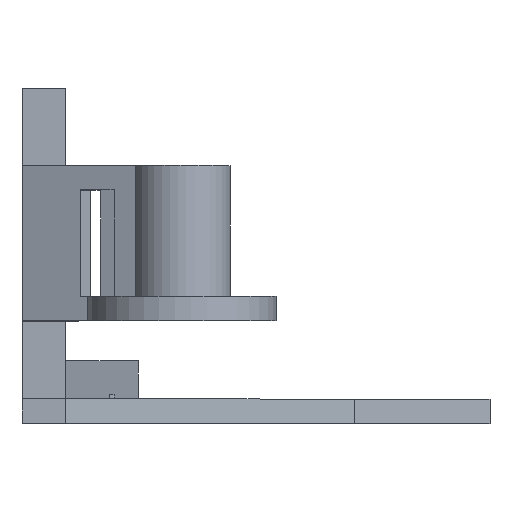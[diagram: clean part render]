
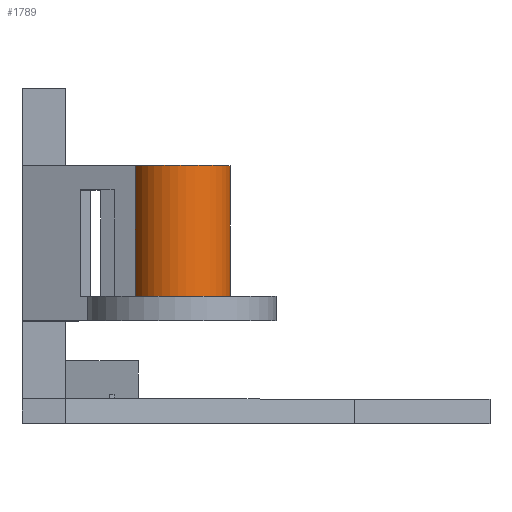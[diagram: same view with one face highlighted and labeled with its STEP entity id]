
A CAD part, top view. The second image highlights one B-rep face of the part: STEP entity #1789.
In plain terms, the highlighted cylindrical face has radius 10 mm (diameter 20 mm), a partial arc.
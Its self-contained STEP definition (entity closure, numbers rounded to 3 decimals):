
#296 = PLANE('',#297);
#297 = AXIS2_PLACEMENT_3D('',#298,#299,#300);
#298 = CARTESIAN_POINT('',(-18.785,16.,-13.008));
#299 = DIRECTION('',(-0.,-1.,-0.));
#300 = DIRECTION('',(0.,0.,-1.));
#324 = PLANE('',#325);
#325 = AXIS2_PLACEMENT_3D('',#326,#327,#328);
#326 = CARTESIAN_POINT('',(-6.,-16.,4.));
#327 = DIRECTION('',(-0.347,0.,0.938));
#328 = DIRECTION('',(-0.938,0.,-0.347));
#1029 = PLANE('',#1030);
#1030 = AXIS2_PLACEMENT_3D('',#1031,#1032,#1033);
#1031 = CARTESIAN_POINT('',(-24.,-16.,-32.));
#1032 = DIRECTION('',(0.755,0.,-0.656));
#1033 = DIRECTION('',(0.656,0.,0.755));
#1254 = VERTEX_POINT('',#1255);
#1255 = CARTESIAN_POINT('',(-4.104,16.,-9.119));
#1276 = EDGE_CURVE('',#1254,#1277,#1279,.T.);
#1277 = VERTEX_POINT('',#1278);
#1278 = CARTESIAN_POINT('',(-4.104,-11.,-9.119));
#1279 = SURFACE_CURVE('',#1280,(#1284,#1291),.PCURVE_S1.);
#1280 = LINE('',#1281,#1282);
#1281 = CARTESIAN_POINT('',(-4.104,-16.,-9.119));
#1282 = VECTOR('',#1283,1.);
#1283 = DIRECTION('',(0.,-1.,-0.));
#1284 = PCURVE('',#1029,#1285);
#1285 = DEFINITIONAL_REPRESENTATION('',(#1286),#1290);
#1286 = LINE('',#1287,#1288);
#1287 = CARTESIAN_POINT('',(30.322,0.));
#1288 = VECTOR('',#1289,1.);
#1289 = DIRECTION('',(0.,1.));
#1290 = ( GEOMETRIC_REPRESENTATION_CONTEXT(2) 
PARAMETRIC_REPRESENTATION_CONTEXT() REPRESENTATION_CONTEXT('2D SPACE',''
  ) );
#1291 = PCURVE('',#1292,#1297);
#1292 = CYLINDRICAL_SURFACE('',#1293,10.);
#1293 = AXIS2_PLACEMENT_3D('',#1294,#1295,#1296);
#1294 = CARTESIAN_POINT('',(0.,-16.,0.));
#1295 = DIRECTION('',(0.,-1.,-0.));
#1296 = DIRECTION('',(1.,0.,0.));
#1297 = DEFINITIONAL_REPRESENTATION('',(#1298),#1302);
#1298 = LINE('',#1299,#1300);
#1299 = CARTESIAN_POINT('',(-8.277,0.));
#1300 = VECTOR('',#1301,1.);
#1301 = DIRECTION('',(-0.,1.));
#1302 = ( GEOMETRIC_REPRESENTATION_CONTEXT(2) 
PARAMETRIC_REPRESENTATION_CONTEXT() REPRESENTATION_CONTEXT('2D SPACE',''
  ) );
#1320 = PLANE('',#1321);
#1321 = AXIS2_PLACEMENT_3D('',#1322,#1323,#1324);
#1322 = CARTESIAN_POINT('',(0.,-11.,0.));
#1323 = DIRECTION('',(0.,1.,0.));
#1324 = DIRECTION('',(0.,-0.,1.));
#1789 = ADVANCED_FACE('',(#1790),#1292,.T.);
#1790 = FACE_BOUND('',#1791,.F.);
#1791 = EDGE_LOOP('',(#1792,#1817,#1843,#1844));
#1792 = ORIENTED_EDGE('',*,*,#1793,.F.);
#1793 = EDGE_CURVE('',#1794,#1796,#1798,.T.);
#1794 = VERTEX_POINT('',#1795);
#1795 = CARTESIAN_POINT('',(-9.642,16.,2.651));
#1796 = VERTEX_POINT('',#1797);
#1797 = CARTESIAN_POINT('',(-9.642,-11.,2.651));
#1798 = SURFACE_CURVE('',#1799,(#1803,#1810),.PCURVE_S1.);
#1799 = LINE('',#1800,#1801);
#1800 = CARTESIAN_POINT('',(-9.642,-16.,2.651));
#1801 = VECTOR('',#1802,1.);
#1802 = DIRECTION('',(0.,-1.,-0.));
#1803 = PCURVE('',#1292,#1804);
#1804 = DEFINITIONAL_REPRESENTATION('',(#1805),#1809);
#1805 = LINE('',#1806,#1807);
#1806 = CARTESIAN_POINT('',(-3.41,0.));
#1807 = VECTOR('',#1808,1.);
#1808 = DIRECTION('',(-0.,1.));
#1809 = ( GEOMETRIC_REPRESENTATION_CONTEXT(2) 
PARAMETRIC_REPRESENTATION_CONTEXT() REPRESENTATION_CONTEXT('2D SPACE',''
  ) );
#1810 = PCURVE('',#324,#1811);
#1811 = DEFINITIONAL_REPRESENTATION('',(#1812),#1816);
#1812 = LINE('',#1813,#1814);
#1813 = CARTESIAN_POINT('',(3.884,0.));
#1814 = VECTOR('',#1815,1.);
#1815 = DIRECTION('',(-0.,1.));
#1816 = ( GEOMETRIC_REPRESENTATION_CONTEXT(2) 
PARAMETRIC_REPRESENTATION_CONTEXT() REPRESENTATION_CONTEXT('2D SPACE',''
  ) );
#1817 = ORIENTED_EDGE('',*,*,#1818,.T.);
#1818 = EDGE_CURVE('',#1794,#1254,#1819,.T.);
#1819 = SURFACE_CURVE('',#1820,(#1825,#1832),.PCURVE_S1.);
#1820 = CIRCLE('',#1821,10.);
#1821 = AXIS2_PLACEMENT_3D('',#1822,#1823,#1824);
#1822 = CARTESIAN_POINT('',(0.,16.,0.));
#1823 = DIRECTION('',(0.,1.,-0.));
#1824 = DIRECTION('',(-0.964,0.,0.265));
#1825 = PCURVE('',#1292,#1826);
#1826 = DEFINITIONAL_REPRESENTATION('',(#1827),#1831);
#1827 = LINE('',#1828,#1829);
#1828 = CARTESIAN_POINT('',(-3.41,-32.));
#1829 = VECTOR('',#1830,1.);
#1830 = DIRECTION('',(-1.,0.));
#1831 = ( GEOMETRIC_REPRESENTATION_CONTEXT(2) 
PARAMETRIC_REPRESENTATION_CONTEXT() REPRESENTATION_CONTEXT('2D SPACE',''
  ) );
#1832 = PCURVE('',#296,#1833);
#1833 = DEFINITIONAL_REPRESENTATION('',(#1834),#1842);
#1834 = ( BOUNDED_CURVE() B_SPLINE_CURVE(2,(#1835,#1836,#1837,#1838,
#1839,#1840,#1841),.UNSPECIFIED.,.T.,.F.) B_SPLINE_CURVE_WITH_KNOTS((1,2
    ,2,2,2,1),(-2.094,0.,2.094,4.189,
6.283,8.378),.UNSPECIFIED.) CURVE() 
GEOMETRIC_REPRESENTATION_ITEM() RATIONAL_B_SPLINE_CURVE((1.,0.5,1.,0.5,
1.,0.5,1.)) REPRESENTATION_ITEM('') );
#1835 = CARTESIAN_POINT('',(-15.659,9.142));
#1836 = CARTESIAN_POINT('',(-32.36,13.734));
#1837 = CARTESIAN_POINT('',(-20.033,25.902));
#1838 = CARTESIAN_POINT('',(-7.706,38.069));
#1839 = CARTESIAN_POINT('',(-3.332,21.31));
#1840 = CARTESIAN_POINT('',(1.041,4.551));
#1841 = CARTESIAN_POINT('',(-15.659,9.142));
#1842 = ( GEOMETRIC_REPRESENTATION_CONTEXT(2) 
PARAMETRIC_REPRESENTATION_CONTEXT() REPRESENTATION_CONTEXT('2D SPACE',''
  ) );
#1843 = ORIENTED_EDGE('',*,*,#1276,.T.);
#1844 = ORIENTED_EDGE('',*,*,#1845,.T.);
#1845 = EDGE_CURVE('',#1277,#1796,#1846,.T.);
#1846 = SURFACE_CURVE('',#1847,(#1852,#1859),.PCURVE_S1.);
#1847 = CIRCLE('',#1848,10.);
#1848 = AXIS2_PLACEMENT_3D('',#1849,#1850,#1851);
#1849 = CARTESIAN_POINT('',(0.,-11.,0.));
#1850 = DIRECTION('',(0.,-1.,-0.));
#1851 = DIRECTION('',(1.,0.,0.));
#1852 = PCURVE('',#1292,#1853);
#1853 = DEFINITIONAL_REPRESENTATION('',(#1854),#1858);
#1854 = LINE('',#1855,#1856);
#1855 = CARTESIAN_POINT('',(-12.566,-5.));
#1856 = VECTOR('',#1857,1.);
#1857 = DIRECTION('',(1.,-0.));
#1858 = ( GEOMETRIC_REPRESENTATION_CONTEXT(2) 
PARAMETRIC_REPRESENTATION_CONTEXT() REPRESENTATION_CONTEXT('2D SPACE',''
  ) );
#1859 = PCURVE('',#1320,#1860);
#1860 = DEFINITIONAL_REPRESENTATION('',(#1861),#1869);
#1861 = ( BOUNDED_CURVE() B_SPLINE_CURVE(2,(#1862,#1863,#1864,#1865,
#1866,#1867,#1868),.UNSPECIFIED.,.T.,.F.) B_SPLINE_CURVE_WITH_KNOTS((1,2
    ,2,2,2,1),(-2.094,0.,2.094,4.189,
6.283,8.378),.UNSPECIFIED.) CURVE() 
GEOMETRIC_REPRESENTATION_ITEM() RATIONAL_B_SPLINE_CURVE((1.,0.5,1.,0.5,
1.,0.5,1.)) REPRESENTATION_ITEM('') );
#1862 = CARTESIAN_POINT('',(0.,10.));
#1863 = CARTESIAN_POINT('',(17.321,10.));
#1864 = CARTESIAN_POINT('',(8.66,-5.));
#1865 = CARTESIAN_POINT('',(0.,-20.));
#1866 = CARTESIAN_POINT('',(-8.66,-5.));
#1867 = CARTESIAN_POINT('',(-17.321,10.));
#1868 = CARTESIAN_POINT('',(0.,10.));
#1869 = ( GEOMETRIC_REPRESENTATION_CONTEXT(2) 
PARAMETRIC_REPRESENTATION_CONTEXT() REPRESENTATION_CONTEXT('2D SPACE',''
  ) );
